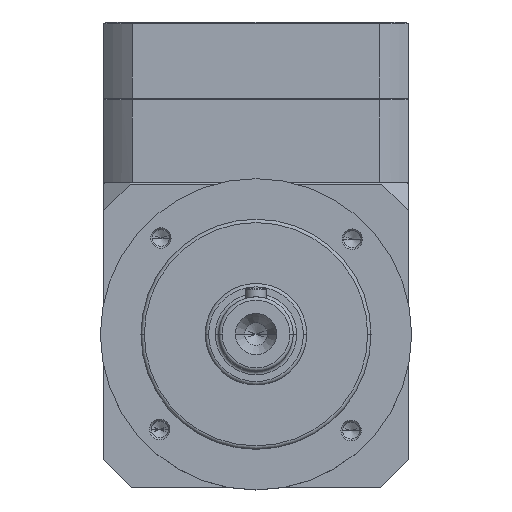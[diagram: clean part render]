
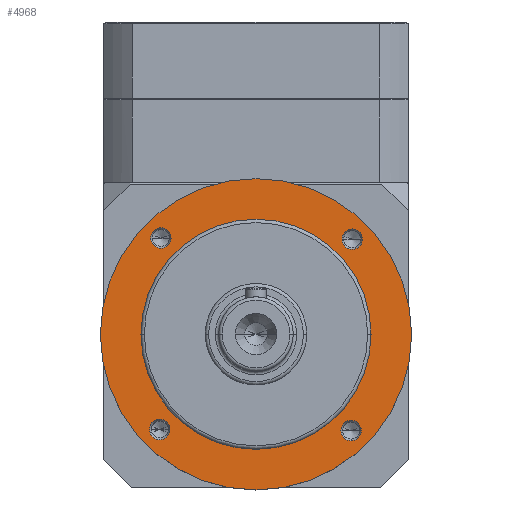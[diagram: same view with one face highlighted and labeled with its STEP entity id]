
A CAD part, top view. The second image highlights one B-rep face of the part: STEP entity #4968.
In plain terms, the highlighted planar face has unit normal (0, 0, 1).
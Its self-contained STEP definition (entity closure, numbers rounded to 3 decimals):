
#10 = VERTEX_POINT ( 'NONE', #5986 ) ;
#21 = VERTEX_POINT ( 'NONE', #4930 ) ;
#53 = EDGE_LOOP ( 'NONE', ( #5236, #3483 ) ) ;
#103 = DIRECTION ( 'NONE',  ( 0., 0., 1. ) ) ;
#134 = CARTESIAN_POINT ( 'NONE',  ( -28.457, -28.111, 0. ) ) ;
#173 = VERTEX_POINT ( 'NONE', #1640 ) ;
#195 = AXIS2_PLACEMENT_3D ( 'NONE', #3102, #3128, #3140 ) ;
#199 = EDGE_LOOP ( 'NONE', ( #4523, #5183 ) ) ;
#225 = DIRECTION ( 'NONE',  ( 0., 0., 1. ) ) ;
#240 = DIRECTION ( 'NONE',  ( 1., 0., 0. ) ) ;
#283 = CARTESIAN_POINT ( 'NONE',  ( 31.482, 28.111, 0. ) ) ;
#362 = EDGE_LOOP ( 'NONE', ( #2315, #3145 ) ) ;
#422 = DIRECTION ( 'NONE',  ( 1., 0., 0. ) ) ;
#430 = AXIS2_PLACEMENT_3D ( 'NONE', #6366, #3460, #1184 ) ;
#446 = CARTESIAN_POINT ( 'NONE',  ( -34., 0., 0. ) ) ;
#518 = AXIS2_PLACEMENT_3D ( 'NONE', #3230, #619, #1145 ) ;
#619 = DIRECTION ( 'NONE',  ( 0., 0., 1. ) ) ;
#628 = DIRECTION ( 'NONE',  ( 1., 0., 0. ) ) ;
#647 = FACE_BOUND ( 'NONE', #53, .T. ) ;
#919 = CIRCLE ( 'NONE', #518, 3.025 ) ;
#940 = CARTESIAN_POINT ( 'NONE',  ( 31.136, -28.457, 0. ) ) ;
#964 = AXIS2_PLACEMENT_3D ( 'NONE', #3321, #225, #3896 ) ;
#1037 = AXIS2_PLACEMENT_3D ( 'NONE', #3018, #6859, #3583 ) ;
#1085 = AXIS2_PLACEMENT_3D ( 'NONE', #4701, #1502, #5230 ) ;
#1145 = DIRECTION ( 'NONE',  ( 1., 0., 0. ) ) ;
#1184 = DIRECTION ( 'NONE',  ( 1., 0., 0. ) ) ;
#1205 = DIRECTION ( 'NONE',  ( 0., 0., 1. ) ) ;
#1213 = EDGE_CURVE ( 'NONE', #173, #4158, #919, .T. ) ;
#1288 = EDGE_CURVE ( 'NONE', #6076, #2753, #3900, .T. ) ;
#1390 = AXIS2_PLACEMENT_3D ( 'NONE', #6829, #5208, #1999 ) ;
#1442 = CIRCLE ( 'NONE', #6483, 34. ) ;
#1473 = PLANE ( 'NONE',  #1390 ) ;
#1502 = DIRECTION ( 'NONE',  ( 0., 0., 1. ) ) ;
#1572 = EDGE_LOOP ( 'NONE', ( #4785, #1647 ) ) ;
#1575 = EDGE_LOOP ( 'NONE', ( #3813, #4619 ) ) ;
#1581 = CIRCLE ( 'NONE', #964, 3.025 ) ;
#1604 = CARTESIAN_POINT ( 'NONE',  ( -25.086, 28.457, 0. ) ) ;
#1640 = CARTESIAN_POINT ( 'NONE',  ( 25.086, -28.457, 0. ) ) ;
#1647 = ORIENTED_EDGE ( 'NONE', *, *, #4632, .F. ) ;
#1805 = EDGE_CURVE ( 'NONE', #2890, #2076, #2125, .T. ) ;
#1999 = DIRECTION ( 'NONE',  ( 1., 0., 0. ) ) ;
#2076 = VERTEX_POINT ( 'NONE', #2842 ) ;
#2077 = VERTEX_POINT ( 'NONE', #446 ) ;
#2118 = VERTEX_POINT ( 'NONE', #1604 ) ;
#2125 = CIRCLE ( 'NONE', #430, 46. ) ;
#2149 = AXIS2_PLACEMENT_3D ( 'NONE', #3150, #103, #3724 ) ;
#2151 = EDGE_CURVE ( 'NONE', #2118, #21, #5255, .T. ) ;
#2270 = CARTESIAN_POINT ( 'NONE',  ( -31.482, -28.111, 0. ) ) ;
#2315 = ORIENTED_EDGE ( 'NONE', *, *, #4184, .F. ) ;
#2408 = CARTESIAN_POINT ( 'NONE',  ( -28.111, 28.457, 0. ) ) ;
#2467 = CIRCLE ( 'NONE', #5457, 3.025 ) ;
#2488 = CIRCLE ( 'NONE', #2149, 46. ) ;
#2524 = CARTESIAN_POINT ( 'NONE',  ( -28.111, 28.457, 0. ) ) ;
#2539 = EDGE_LOOP ( 'NONE', ( #5469, #5352 ) ) ;
#2623 = AXIS2_PLACEMENT_3D ( 'NONE', #2524, #3088, #422 ) ;
#2753 = VERTEX_POINT ( 'NONE', #2270 ) ;
#2788 = CIRCLE ( 'NONE', #4622, 34. ) ;
#2842 = CARTESIAN_POINT ( 'NONE',  ( -46., 0., 0. ) ) ;
#2858 = VERTEX_POINT ( 'NONE', #283 ) ;
#2887 = DIRECTION ( 'NONE',  ( 1., 0., 0. ) ) ;
#2890 = VERTEX_POINT ( 'NONE', #5589 ) ;
#3018 = CARTESIAN_POINT ( 'NONE',  ( 28.111, -28.457, 0. ) ) ;
#3088 = DIRECTION ( 'NONE',  ( 0., 0., 1. ) ) ;
#3102 = CARTESIAN_POINT ( 'NONE',  ( -28.457, -28.111, 0. ) ) ;
#3128 = DIRECTION ( 'NONE',  ( 0., 0., 1. ) ) ;
#3131 = CIRCLE ( 'NONE', #1037, 3.025 ) ;
#3140 = DIRECTION ( 'NONE',  ( 1., 0., 0. ) ) ;
#3145 = ORIENTED_EDGE ( 'NONE', *, *, #1213, .F. ) ;
#3150 = CARTESIAN_POINT ( 'NONE',  ( 0., 0., 0. ) ) ;
#3154 = FACE_OUTER_BOUND ( 'NONE', #199, .T. ) ;
#3199 = EDGE_CURVE ( 'NONE', #2076, #2890, #2488, .T. ) ;
#3230 = CARTESIAN_POINT ( 'NONE',  ( 28.111, -28.457, 0. ) ) ;
#3321 = CARTESIAN_POINT ( 'NONE',  ( 28.457, 28.111, 0. ) ) ;
#3337 = DIRECTION ( 'NONE',  ( 0., 0., 1. ) ) ;
#3460 = DIRECTION ( 'NONE',  ( 0., 0., 1. ) ) ;
#3483 = ORIENTED_EDGE ( 'NONE', *, *, #6177, .F. ) ;
#3583 = DIRECTION ( 'NONE',  ( 1., 0., 0. ) ) ;
#3661 = AXIS2_PLACEMENT_3D ( 'NONE', #2408, #6160, #2887 ) ;
#3724 = DIRECTION ( 'NONE',  ( 1., 0., 0. ) ) ;
#3762 = DIRECTION ( 'NONE',  ( 0., 0., 1. ) ) ;
#3813 = ORIENTED_EDGE ( 'NONE', *, *, #5701, .F. ) ;
#3896 = DIRECTION ( 'NONE',  ( 1., 0., 0. ) ) ;
#3900 = CIRCLE ( 'NONE', #195, 3.025 ) ;
#4158 = VERTEX_POINT ( 'NONE', #940 ) ;
#4184 = EDGE_CURVE ( 'NONE', #4158, #173, #3131, .T. ) ;
#4373 = CARTESIAN_POINT ( 'NONE',  ( 0., 0., 0. ) ) ;
#4523 = ORIENTED_EDGE ( 'NONE', *, *, #1805, .T. ) ;
#4570 = VERTEX_POINT ( 'NONE', #5538 ) ;
#4619 = ORIENTED_EDGE ( 'NONE', *, *, #6335, .F. ) ;
#4622 = AXIS2_PLACEMENT_3D ( 'NONE', #6611, #3337, #240 ) ;
#4628 = FACE_BOUND ( 'NONE', #1572, .T. ) ;
#4632 = EDGE_CURVE ( 'NONE', #21, #2118, #5398, .T. ) ;
#4701 = CARTESIAN_POINT ( 'NONE',  ( 28.457, 28.111, 0. ) ) ;
#4705 = CARTESIAN_POINT ( 'NONE',  ( -25.432, -28.111, 0. ) ) ;
#4785 = ORIENTED_EDGE ( 'NONE', *, *, #2151, .F. ) ;
#4853 = FACE_BOUND ( 'NONE', #1575, .T. ) ;
#4916 = DIRECTION ( 'NONE',  ( 1., 0., 0. ) ) ;
#4930 = CARTESIAN_POINT ( 'NONE',  ( -31.136, 28.457, 0. ) ) ;
#4968 = ADVANCED_FACE ( 'NONE', ( #4628, #5368, #5048, #647, #3154, #4853 ), #1473, .T. ) ;
#4981 = EDGE_CURVE ( 'NONE', #2858, #10, #5388, .T. ) ;
#5048 = FACE_BOUND ( 'NONE', #362, .T. ) ;
#5183 = ORIENTED_EDGE ( 'NONE', *, *, #3199, .T. ) ;
#5208 = DIRECTION ( 'NONE',  ( 0., 0., 1. ) ) ;
#5230 = DIRECTION ( 'NONE',  ( 1., 0., 0. ) ) ;
#5236 = ORIENTED_EDGE ( 'NONE', *, *, #1288, .F. ) ;
#5255 = CIRCLE ( 'NONE', #2623, 3.025 ) ;
#5352 = ORIENTED_EDGE ( 'NONE', *, *, #5774, .F. ) ;
#5368 = FACE_BOUND ( 'NONE', #2539, .T. ) ;
#5388 = CIRCLE ( 'NONE', #1085, 3.025 ) ;
#5398 = CIRCLE ( 'NONE', #3661, 3.025 ) ;
#5457 = AXIS2_PLACEMENT_3D ( 'NONE', #134, #3762, #628 ) ;
#5469 = ORIENTED_EDGE ( 'NONE', *, *, #4981, .F. ) ;
#5538 = CARTESIAN_POINT ( 'NONE',  ( 34., 0., 0. ) ) ;
#5589 = CARTESIAN_POINT ( 'NONE',  ( 46., 0., 0. ) ) ;
#5701 = EDGE_CURVE ( 'NONE', #2077, #4570, #1442, .T. ) ;
#5774 = EDGE_CURVE ( 'NONE', #10, #2858, #1581, .T. ) ;
#5986 = CARTESIAN_POINT ( 'NONE',  ( 25.432, 28.111, 0. ) ) ;
#6076 = VERTEX_POINT ( 'NONE', #4705 ) ;
#6160 = DIRECTION ( 'NONE',  ( 0., 0., 1. ) ) ;
#6177 = EDGE_CURVE ( 'NONE', #2753, #6076, #2467, .T. ) ;
#6335 = EDGE_CURVE ( 'NONE', #4570, #2077, #2788, .T. ) ;
#6366 = CARTESIAN_POINT ( 'NONE',  ( 0., 0., 0. ) ) ;
#6483 = AXIS2_PLACEMENT_3D ( 'NONE', #4373, #1205, #4916 ) ;
#6611 = CARTESIAN_POINT ( 'NONE',  ( 0., 0., 0. ) ) ;
#6829 = CARTESIAN_POINT ( 'NONE',  ( 0., 0., 0. ) ) ;
#6859 = DIRECTION ( 'NONE',  ( 0., 0., 1. ) ) ;
